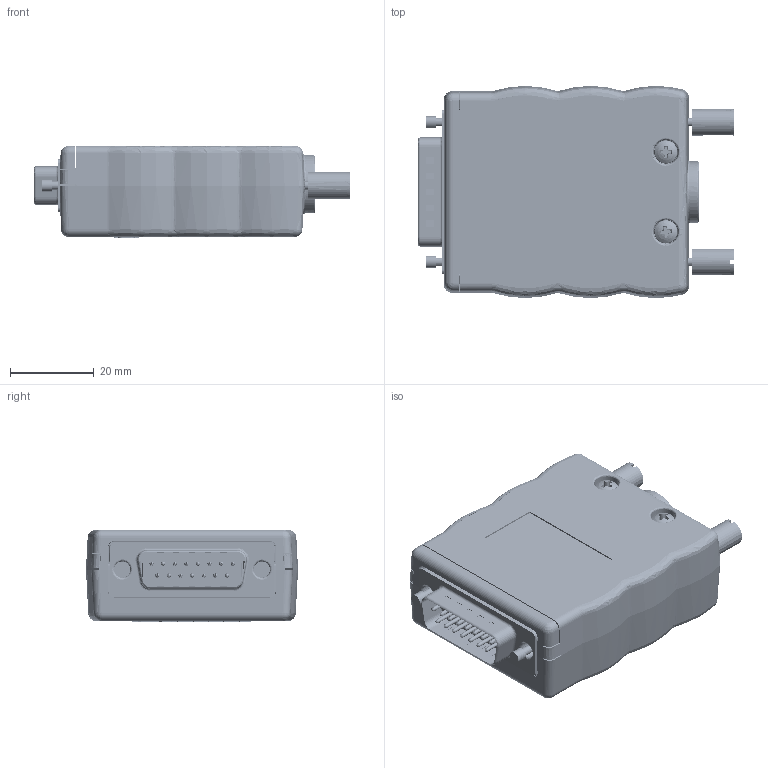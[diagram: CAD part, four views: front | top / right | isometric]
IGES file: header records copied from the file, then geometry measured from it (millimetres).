
Start section: SolidWorks IGES file using analytic representation for surfaces
Global section: file name: D:\Documents\Winford Engineering Jobs\BRKEAD15\BRKEAD15M\brkead15m-t_rev_a.igs; native system: SolidWorks 2017; preprocessor: SolidWorks 2017; author: mudhf; date: 211114.203611; units: inch
Bounding box: 75.52 x 50.61 x 22 mm (x, y, z)
Surface area: 40268.2 mm2 (no closed solid volume)
Topology: 0 solids, 0 shells, 11388 faces, 90164 edges, 89907 vertices
Faces by surface type: bspline 8652, revolution 2736
